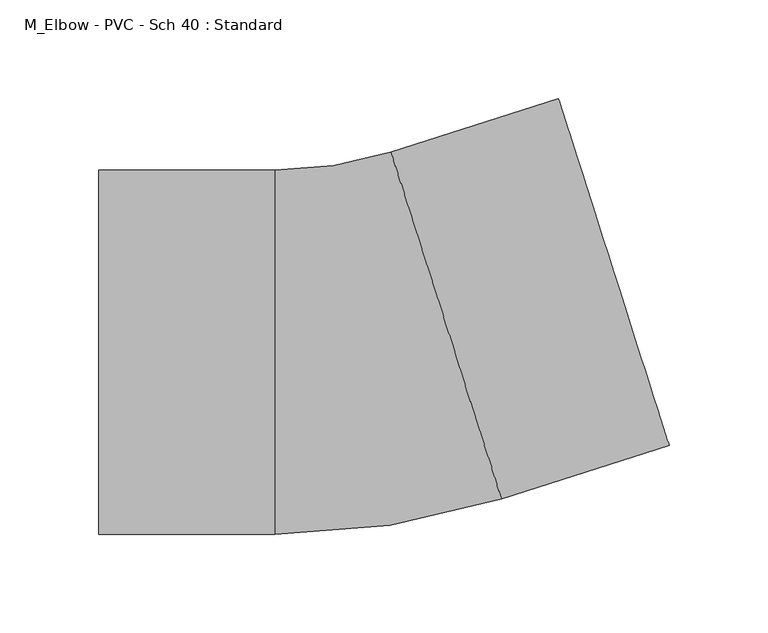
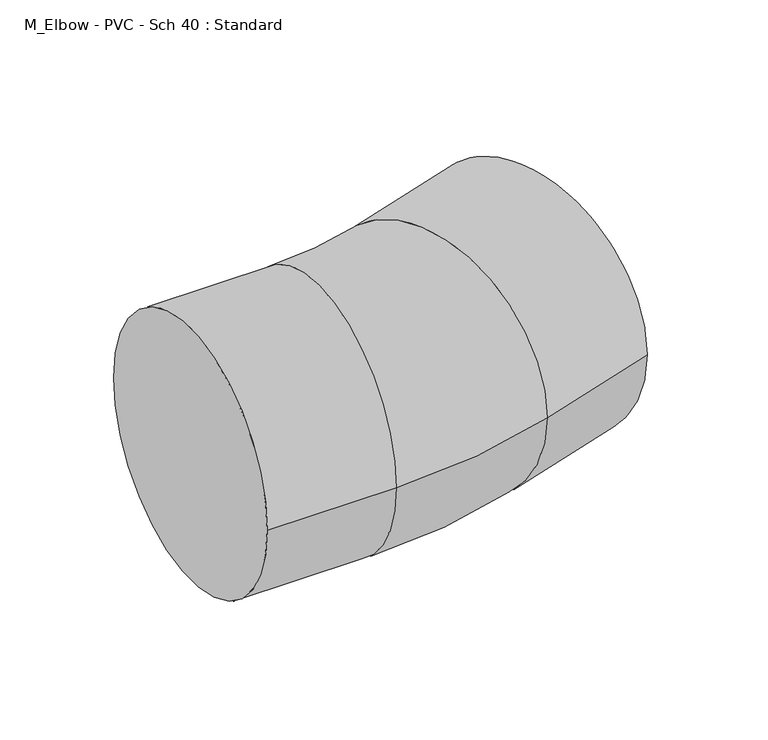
"""IFC4 building model written with IfcOpenShell, lengths in millimetres: pipe fitting geometry, M_Elbow - PVC - Sch 40 : Standard."""

from ifc_helpers import new_model, si_unit, point, frame, origin, place, context, project, spatial, circle_curve, ellipse_curve, trimmed, source, transform, mapped, element, save
from ifc_brep_helpers import plane_surface, cylinder_surface, revolved_surface, advanced_brep


def m_elbow_pvc_sch_40_standard_75780b4e(model_context):
    return source(origin(), model_context, "Body", "AdvancedBrep", [
        advanced_brep(
        [(-133.35, -92.075, 0.0), (-133.35, 92.075, 0.0), (-44.45, -92.075, 0.0), (-44.45, 92.075, 0.0), (14.3652901, 101.2286845, 0.0), (70.3298744, -74.211299, 0.0), (155.0250388, -47.1939134, 0.0), (99.0604545, 128.24607, 0.0)],
        [
            (0, 1, circle_curve(frame((-133.35, 0.0, 0.0), z_axis=(-1.0, 0.0, 0.0), x_axis=(0.0, 1.0, 0.0)), 92.075)),
            (1, 0, circle_curve(frame((-133.35, 0.0, 0.0), z_axis=(-1.0, 0.0, 0.0), x_axis=(0.0, 1.0, 0.0)), 92.075)),
            (0, 2),
            (2, 3, circle_curve(frame((-44.45, 0.0, 0.0), z_axis=(-1.0, 0.0, 0.0), x_axis=(0.0, 1.0, 0.0)), 92.075)),
            (3, 1),
            (3, 2, circle_curve(frame((-44.45, 0.0, 0.0), z_axis=(-1.0, 0.0, 0.0), x_axis=(0.0, 1.0, 0.0)), 92.075)),
            (4, 3, circle_curve(frame((-44.45, 285.6051726, 0.0), z_axis=(0.0, 0.0, -1.0), x_axis=(0.0, -1.0, 0.0)), 193.5301726)),
            (2, 5, circle_curve(frame((-44.45, 285.6051726, 0.0), z_axis=(0.0, 0.0, 1.0), x_axis=(0.0, -1.0, 0.0)), 377.6801726)),
            (5, 4, circle_curve(frame((42.3475822, 13.5086928, 0.0), z_axis=(-0.9527015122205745, -0.3039075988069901, 0.0), x_axis=(-0.3039075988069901, 0.9527015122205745, 0.0)), 92.075)),
            (4, 5, circle_curve(frame((42.3475822, 13.5086928, 0.0), z_axis=(-0.9527015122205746, -0.3039075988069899, 0.0), x_axis=(-0.3039075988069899, 0.9527015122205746, 0.0)), 92.075)),
            (6, 7, circle_curve(frame((127.0427467, 40.5260783, 0.0), z_axis=(0.9527015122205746, 0.30390759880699, 0.0), x_axis=(-0.30390759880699, 0.9527015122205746, 0.0)), 92.075)),
            (7, 6, circle_curve(frame((127.0427467, 40.5260783, 0.0), z_axis=(0.9527015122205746, 0.30390759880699, 0.0), x_axis=(-0.30390759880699, 0.9527015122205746, 0.0)), 92.075)),
            (5, 6),
            (7, 4),
        ],
        [
            plane_surface(frame((-133.35, 0.0, 0.0), z_axis=(-1.0, 0.0, 0.0), x_axis=(0.0, 0.0, 1.0))),
            cylinder_surface(frame((-133.35, 0.0, 0.0), z_axis=(-1.0, 0.0, 0.0), x_axis=(0.0, 1.0, 0.0)), 92.075),
            revolved_surface(trimmed(ellipse_curve(frame((-44.45, 0.0, 0.0), z_axis=(-1.0, 0.0, 0.0), x_axis=(0.0, 1.0, 0.0)), 92.075, 92.075), [point((-44.45, -92.075, 0.0))], [point((-44.45, 92.075, 0.0))], True, "CARTESIAN"), (-44.45, 285.6051726, 0.0), (0.0, 0.0, 1.0)),
            revolved_surface(trimmed(ellipse_curve(frame((-44.45, 0.0, 0.0), z_axis=(-1.0, 0.0, 0.0), x_axis=(0.0, 1.0, 0.0)), 92.075, 92.075), [point((-44.45, 92.075, 0.0))], [point((-44.45, -92.075, 0.0))], True, "CARTESIAN"), (-44.45, 285.6051726, 0.0), (0.0, 0.0, 1.0)),
            plane_surface(frame((127.0427467, 40.5260783, 0.0), z_axis=(0.9527015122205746, 0.3039075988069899, 0.0), x_axis=(0.0, 0.0, 1.0))),
            cylinder_surface(frame((42.3475822, 13.5086928, 0.0), z_axis=(-0.9527015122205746, -0.30390759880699, 0.0), x_axis=(-0.30390759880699, 0.9527015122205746, 0.0)), 92.075),
        ],
        [
            (0, [[1, 2]]),
            (1, [[-1, 3, 4, 5]]),
            (1, [[-2, -5, 6, -3]]),
            (2, [[7, -4, 8, 9]]),
            (3, [[-8, -6, -7, 10]]),
            (4, [[11, 12]]),
            (5, [[-9, 13, -12, 14]]),
            (5, [[-10, -14, -11, -13]]),
        ],
    ),
    ])


if __name__ == "__main__":
    model = new_model("IFC4")
    model_context = context("Model", 3, world=origin())
    ifc_project = project(units=[si_unit("LENGTHUNIT", "METRE", prefix="MILLI")], contexts=[model_context])
    site = spatial("IfcSite", under=ifc_project)
    building = spatial("IfcBuilding", under=site)
    placement = place(None, origin())
    m_elbow_pvc_sch_40_standard_shape = m_elbow_pvc_sch_40_standard_75780b4e(model_context)
    element("IfcPipeFitting", 1, ObjectType="M_Elbow - PVC - Sch 40 : Standard", at=placement, inside=building, context=model_context, shape_type="MappedRepresentation", body=[
        mapped(m_elbow_pvc_sch_40_standard_shape, transform((0.0, 0.0, 0.0), x_axis=(1.0, 0.0, 0.0), y_axis=(0.0, 1.0, 0.0), z_axis=(0.0, 0.0, 1.0))),
    ])
    save(model, "model.ifc")
